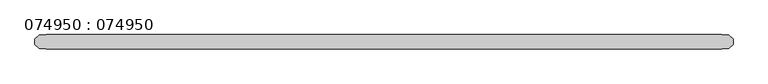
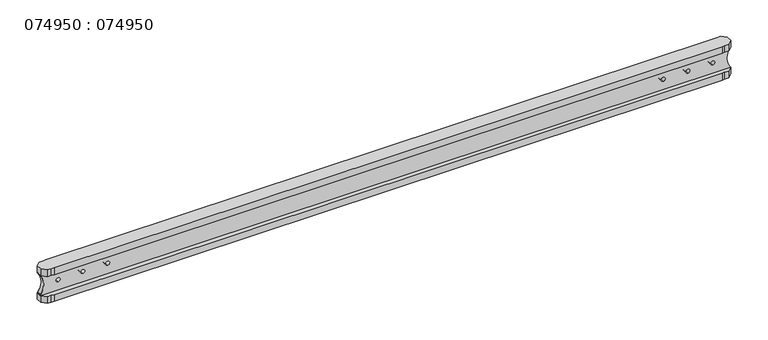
"""IFC4 building model written with IfcOpenShell, lengths in millimetres: proxy geometry, 074950 : 074950."""

import ifcopenshell
import ifcopenshell.guid

model = None  # the IFC model being written
_history = None  # IfcOwnerHistory: only IFC2X3 demands one
_inside = {}  # id of a spatial element -> (the spatial element, [elements in it])
_under = {}  # id of a project, library or spatial element -> (it, [spatial elements below it])
_declared = {}  # id of a project -> (the project, [libraries it declares])
_typed = {}  # id of a type object -> (the type object, [elements of that type])
_made_of = {}  # id of a material, layer set ... -> (it, [elements and type objects made of it])


def new_model(schema):
    """Start an empty IFC model of exactly this schema.

    Asked for "IFC4X3", IfcOpenShell would pick the latest addendum, in which some entities
    have other attributes; the version numbers below select the first issue.
    IFC2X3 requires an IfcOwnerHistory on every rooted entity: one is made here for all.
    """
    global model, _history
    if schema == "IFC4X3":
        model = ifcopenshell.file(schema_version=(4, 3, 0, 0))
    else:
        model = ifcopenshell.file(schema=schema)
    _inside.clear()
    _under.clear()
    _declared.clear()
    _typed.clear()
    _made_of.clear()
    _history = None
    if model.schema == "IFC2X3":
        org = make("IfcOrganization", Name="unknown")
        user = make(
            "IfcPersonAndOrganization",
            ThePerson=make("IfcPerson", FamilyName="unknown"),
            TheOrganization=org,
        )
        app = make(
            "IfcApplication",
            ApplicationDeveloper=org,
            Version="unknown",
            ApplicationFullName="unknown",
            ApplicationIdentifier="unknown",
        )
        _history = make(
            "IfcOwnerHistory",
            OwningUser=user,
            OwningApplication=app,
            ChangeAction="ADDED",
            CreationDate=0,
        )
    return model


def make(cls, **values):
    """One entity of the class cls with the attributes given. An attribute that is None is left unset."""
    return model.create_entity(
        cls, **{name: value for name, value in values.items() if value is not None}
    )


def rooted(cls, **values):
    """An entity with a GlobalId (a new one), such as an element, a storey or a relation."""
    return make(cls, GlobalId=ifcopenshell.guid.new(), OwnerHistory=_history, **values)


def si_unit(unit_type, name, prefix=None):
    """IfcSIUnit, for example si_unit("LENGTHUNIT", "METRE", prefix="MILLI")."""
    return make("IfcSIUnit", UnitType=unit_type, Prefix=prefix, Name=name)


def assignment(units):
    """IfcUnitAssignment: the units of a project."""
    return None if units is None else make("IfcUnitAssignment", Units=units)


def point(xyz):
    """IfcCartesianPoint."""
    return None if xyz is None else make("IfcCartesianPoint", Coordinates=xyz)


def direction(xyz):
    """IfcDirection."""
    return None if xyz is None else make("IfcDirection", DirectionRatios=xyz)


def frame(location, z_axis=None, x_axis=None):
    """IfcAxis2Placement3D, a coordinate frame: its origin and axes. An axis left out is left unset."""
    return make(
        "IfcAxis2Placement3D",
        Location=point(location),
        Axis=direction(z_axis),
        RefDirection=direction(x_axis),
    )


def origin():
    """The frame at (0, 0, 0) with its axes left unset."""
    return frame((0.0, 0.0, 0.0))


def place(relative_to, where):
    """IfcLocalPlacement: puts the frame where relative to a parent placement (None: the world)."""
    return make(
        "IfcLocalPlacement", PlacementRelTo=relative_to, RelativePlacement=where
    )


def context(
    kind, dimensions, precision=None, world=None, true_north=None, identifier=None
):
    """IfcGeometricRepresentationContext, for example the 3D "Model" context."""
    return make(
        "IfcGeometricRepresentationContext",
        ContextIdentifier=identifier,
        ContextType=kind,
        CoordinateSpaceDimension=dimensions,
        Precision=precision,
        WorldCoordinateSystem=world,
        TrueNorth=true_north,
    )


def project(units=None, contexts=None):
    """IfcProject with its units and contexts."""
    return rooted(
        "IfcProject",
        Name="project",
        RepresentationContexts=contexts,
        UnitsInContext=assignment(units),
    )


def spatial(cls, under=None, at=None, **own):
    """A site, building, storey or space (cls), placed at a placement, below another one or the project."""
    s = rooted(cls, ObjectPlacement=at, **own)
    if under is not None:
        _under.setdefault(under.id(), (under, []))[1].append(s)
    return s


def polyline(points):
    """IfcPolyline through the points."""
    return make("IfcPolyline", Points=[point(p) for p in points])


def circle_curve(where, radius):
    """IfcCircle in the frame where."""
    return make("IfcCircle", Position=where, Radius=radius)


def shape(context_of_items, identifier, shape_type, items):
    """IfcShapeRepresentation: the items that make up one representation, for example the "Body"."""
    return make(
        "IfcShapeRepresentation",
        ContextOfItems=context_of_items,
        RepresentationIdentifier=identifier,
        RepresentationType=shape_type,
        Items=items,
    )


def source(mapping_origin, context_of_items, identifier, shape_type, items):
    """IfcRepresentationMap: a shape defined once, which mapped items show again and again."""
    return make(
        "IfcRepresentationMap",
        MappingOrigin=mapping_origin,
        MappedRepresentation=shape(context_of_items, identifier, shape_type, items),
    )


def transform(
    local_origin,
    x_axis=None,
    y_axis=None,
    z_axis=None,
    scale=None,
    scale2=None,
    scale3=None,
    uniform=True,
):
    """IfcCartesianTransformationOperator3D, or its non-uniform kind. x_axis, y_axis, z_axis: its Axis1, 2, 3."""
    if uniform:
        return make(
            "IfcCartesianTransformationOperator3D",
            Axis1=direction(x_axis),
            Axis2=direction(y_axis),
            LocalOrigin=point(local_origin),
            Scale=scale,
            Axis3=direction(z_axis),
        )
    return make(
        "IfcCartesianTransformationOperator3DnonUniform",
        Axis1=direction(x_axis),
        Axis2=direction(y_axis),
        LocalOrigin=point(local_origin),
        Scale=scale,
        Axis3=direction(z_axis),
        Scale2=scale2,
        Scale3=scale3,
    )


def mapped(mapping_source, mapping_target):
    """IfcMappedItem: shows the shape of a source again, moved by a transform."""
    return make(
        "IfcMappedItem", MappingSource=mapping_source, MappingTarget=mapping_target
    )


def made_of(thing, what):
    """Note that an element or type object is made of a material, layer set ...; save() writes the relation."""
    if what is not None:
        _made_of.setdefault(what.id(), (what, []))[1].append(thing)
    return thing


def element(
    cls,
    number,
    at=None,
    inside=None,
    cuts=None,
    type_object=None,
    material=None,
    context=None,
    identifier="Body",
    shape_type=None,
    held_by="IfcProductDefinitionShape",
    body=None,
    shapes=None,
    **own,
):
    """One element of the class cls, such as IfcWall. Its Tag is "e" and its number.

    at: its placement. inside: the storey or other place that contains it. cuts: it is an
    opening in that element (IfcRelVoidsElement). A single representation is given by context,
    identifier, shape_type and body (its items); several are given by shapes. held_by: the class
    of the entity that holds the representations. save() writes the other relations.
    """
    e = rooted(cls, Tag="e%d" % number, ObjectPlacement=at, **own)
    if body is not None:
        shapes = [shape(context, identifier, shape_type, body)]
    if shapes is not None:
        e.Representation = make(held_by, Representations=shapes)
    if inside is not None:
        _inside.setdefault(inside.id(), (inside, []))[1].append(e)
    if cuts is not None:
        rooted(
            "IfcRelVoidsElement", RelatingBuildingElement=cuts, RelatedOpeningElement=e
        )
    if type_object is not None:
        _typed.setdefault(type_object.id(), (type_object, []))[1].append(e)
    return made_of(e, material)


def aggregate(whole, parts):
    """IfcRelAggregates: a whole, such as a stair, and the parts it consists of."""
    return rooted("IfcRelAggregates", RelatingObject=whole, RelatedObjects=parts)


def save(model, path):
    """Write the relations noted so far, then the file.

    IfcRelAggregates (storeys below a building ...), IfcRelContainedInSpatialStructure (elements
    in a storey), IfcRelDefinesByType, IfcRelAssociatesMaterial and IfcRelDeclares: one each for
    every whole, place, type object, material and project.
    """
    for whole, parts in _under.values():
        aggregate(whole, parts)
    for where, things in _inside.values():
        rooted(
            "IfcRelContainedInSpatialStructure",
            RelatedElements=things,
            RelatingStructure=where,
        )
    for kind, things in _typed.values():
        rooted("IfcRelDefinesByType", RelatedObjects=things, RelatingType=kind)
    for what, things in _made_of.values():
        rooted("IfcRelAssociatesMaterial", RelatedObjects=things, RelatingMaterial=what)
    for by, libraries in _declared.values():
        rooted("IfcRelDeclares", RelatingContext=by, RelatedDefinitions=libraries)
    model.write(path)


def plane_surface(at):
    """IfcPlane: the flat surface through the origin of the frame at, square to its z axis."""
    return make("IfcPlane", Position=at)


def cylinder_surface(at, radius):
    """IfcCylindricalSurface: all points at the distance radius from the z axis of the frame at."""
    return make("IfcCylindricalSurface", Position=at, Radius=radius)


def revolved_surface(curve, axis_point, axis_direction):
    """IfcSurfaceOfRevolution: the curve turned about the line through axis_point along axis_direction."""
    return make(
        "IfcSurfaceOfRevolution",
        SweptCurve=make("IfcArbitraryOpenProfileDef", ProfileType="CURVE", Curve=curve),
        AxisPosition=make("IfcAxis1Placement", Location=point(axis_point), Axis=direction(axis_direction)),
    )


def advanced_brep(points, edges, surfaces, faces):
    """IfcAdvancedBrep: a solid bounded by faces that lie on surfaces and meet in shared edges.

    An edge is (start, end): straight between two places in points (the first is 0);
    or (start, end, curve); or (start, end, curve, False) where it runs against its curve.
    A face is (place in surfaces, loops), or (place, loops, False) where it looks against
    its surface's normal. A loop lists edges by number (the first is 1), with a minus sign
    where the edge is run from its end to its start. The first loop is the outer one.
    """
    corners = [point(p) for p in points]
    vertices = [make("IfcVertexPoint", VertexGeometry=c) for c in corners]
    made = []
    for start, end, *more in edges:
        made.append(
            make(
                "IfcEdgeCurve",
                EdgeStart=vertices[start],
                EdgeEnd=vertices[end],
                EdgeGeometry=more[0] if more else make("IfcPolyline", Points=[corners[start], corners[end]]),
                SameSense=more[1] if len(more) > 1 else True,
            )
        )
    hull = []
    for where, loops, *sense in faces:
        bounds = []
        for j, loop in enumerate(loops):
            ring = [make("IfcOrientedEdge", EdgeElement=made[abs(k) - 1], Orientation=k > 0) for k in loop]
            bounds.append(
                make(
                    "IfcFaceOuterBound" if j == 0 else "IfcFaceBound",
                    Bound=make("IfcEdgeLoop", EdgeList=ring),
                    Orientation=True,
                )
            )
        hull.append(make("IfcAdvancedFace", Bounds=bounds, FaceSurface=surfaces[where], SameSense=sense[0] if sense else True))
    return make("IfcAdvancedBrep", Outer=make("IfcClosedShell", CfsFaces=hull))


def proxy_074950_074950_5c7bac8d(model_context):
    return source(origin(), model_context, "Body", "AdvancedBrep", [
        advanced_brep(
        [(3520.0, 13.5, 89.0), (3520.0, -13.5, 89.0), (3520.0, -13.5, 111.0), (3520.0, 13.5, 111.0), (3660.0, 13.5, 89.0), (3660.0, -13.5, 89.0), (3660.0, -13.5, 111.0), (3660.0, 13.5, 111.0), (3800.0, 13.5, 89.0), (3800.0, -13.5, 89.0), (3800.0, -13.5, 111.0), (3800.0, 13.5, 111.0), (100.0, 13.5, 89.0), (100.0, -13.5, 89.0), (100.0, -13.5, 111.0), (100.0, 13.5, 111.0), (380.0, 13.5, 89.0), (380.0, -13.5, 89.0), (380.0, -13.5, 111.0), (380.0, 13.5, 111.0), (240.0, 13.5, 89.0), (240.0, -13.5, 89.0), (240.0, -13.5, 111.0), (240.0, 13.5, 111.0), (62.3853149, -40.0, 40.0), (48.0, -38.25, 40.0), (48.0, -38.25, 0.0), (62.3853149, -40.0, 0.0), (23.5, -38.25, 40.0), (23.5, -38.25, 0.0), (0.0, -14.9576475, 40.0), (0.0, -14.9576475, 0.0), (0.0, 14.9576475, 40.0), (23.5, 38.25, 40.0), (23.5, 38.25, 0.0), (0.0, 14.9576475, 0.0), (48.0, 38.25, 40.0), (48.0, 38.25, 0.0), (62.3853149, 40.0, 40.0), (62.3853149, 40.0, 0.0), (0.1998135, 13.5, 40.0), (0.1998135, -13.5, 40.0), (1.7390909, -13.5, 43.6463125), (1.7390909, 13.5, 43.6463125), (3837.6146851, -40.0, 0.0), (3837.6146851, -40.0, 40.0), (62.3853149, -40.0, 200.0), (48.0, -38.25, 200.0), (48.0, -38.25, 160.0), (62.3853149, -40.0, 160.0), (23.5, -38.25, 200.0), (23.5, -38.25, 160.0), (0.0, -14.9576475, 200.0), (0.0, -14.9576475, 160.0), (0.0, 14.9576475, 200.0), (23.5, 38.25, 200.0), (23.5, 38.25, 160.0), (0.0, 14.9576475, 160.0), (48.0, 38.25, 200.0), (48.0, 38.25, 160.0), (62.3853149, 40.0, 200.0), (62.3853149, 40.0, 160.0), (3837.6146851, -40.0, 200.0), (3852.0, -38.25, 200.0), (3876.5, -38.25, 200.0), (3900.0, -14.9576475, 200.0), (3900.0, 14.9576475, 200.0), (3876.5, 38.25, 200.0), (3852.0, 38.25, 200.0), (3837.6146851, 40.0, 200.0), (3837.6146851, -40.0, 160.0), (0.1998135, -13.5, 160.0), (0.1998135, 13.5, 160.0), (1.7390909, 13.5, 156.3536875), (1.7390909, -13.5, 156.3536875), (3899.8001865, -13.5, 40.0), (3898.2609091, -13.5, 43.6463125), (3898.2609091, -13.5, 156.3536875), (3899.8001865, -13.5, 160.0), (3898.2609091, 13.5, 43.6463125), (3898.2609091, 13.5, 156.3536875), (3899.8001865, 13.5, 160.0), (3899.8001865, 13.5, 40.0), (3837.6146851, 40.0, 0.0), (3852.0, 38.25, 0.0), (3876.5, 38.25, 0.0), (3900.0, 14.9576475, 0.0), (3900.0, -14.9576475, 0.0), (3876.5, -38.25, 0.0), (3852.0, -38.25, 0.0), (3837.6146851, 40.0, 40.0), (3852.0, -38.25, 40.0), (3876.5, -38.25, 40.0), (3900.0, -14.9576475, 40.0), (3900.0, 14.9576475, 40.0), (3876.5, 38.25, 40.0), (3852.0, 38.25, 40.0), (3900.0, 14.9576475, 160.0), (3900.0, -14.9576475, 160.0), (3837.6146851, 40.0, 160.0), (3852.0, 38.25, 160.0), (3876.5, 38.25, 160.0), (3876.5, -38.25, 160.0), (3852.0, -38.25, 160.0)],
        [
            (0, 1),
            (1, 2, circle_curve(frame((3520.0, -13.5, 100.0), z_axis=(0.0, -1.0, 0.0), x_axis=(0.0, 0.0, -1.0)), 11.0)),
            (2, 3),
            (3, 0, circle_curve(frame((3520.0, 13.5, 100.0), z_axis=(0.0, 1.0, 0.0), x_axis=(0.0, 0.0, -1.0)), 11.0)),
            (4, 5),
            (5, 6, circle_curve(frame((3660.0, -13.5, 100.0), z_axis=(0.0, -1.0, 0.0), x_axis=(0.0, 0.0, -1.0)), 11.0)),
            (6, 7),
            (7, 4, circle_curve(frame((3660.0, 13.5, 100.0), z_axis=(0.0, 1.0, 0.0), x_axis=(0.0, 0.0, -1.0)), 11.0)),
            (8, 9),
            (9, 10, circle_curve(frame((3800.0, -13.5, 100.0), z_axis=(0.0, -1.0, 0.0), x_axis=(0.0, 0.0, -1.0)), 11.0)),
            (10, 11),
            (11, 8, circle_curve(frame((3800.0, 13.5, 100.0), z_axis=(0.0, 1.0, 0.0), x_axis=(0.0, 0.0, -1.0)), 11.0)),
            (12, 13),
            (13, 14, circle_curve(frame((100.0, -13.5, 100.0), z_axis=(0.0, -1.0, 0.0), x_axis=(0.0, 0.0, -1.0)), 11.0)),
            (14, 15),
            (15, 12, circle_curve(frame((100.0, 13.5, 100.0), z_axis=(0.0, 1.0, 0.0), x_axis=(0.0, 0.0, -1.0)), 11.0)),
            (16, 17),
            (17, 18, circle_curve(frame((380.0, -13.5, 100.0), z_axis=(0.0, -1.0, 0.0), x_axis=(0.0, 0.0, -1.0)), 11.0)),
            (18, 19),
            (19, 16, circle_curve(frame((380.0, 13.5, 100.0), z_axis=(0.0, 1.0, 0.0), x_axis=(0.0, 0.0, -1.0)), 11.0)),
            (20, 21),
            (21, 22, circle_curve(frame((240.0, -13.5, 100.0), z_axis=(0.0, -1.0, 0.0), x_axis=(0.0, 0.0, -1.0)), 11.0)),
            (22, 23),
            (23, 20, circle_curve(frame((240.0, 13.5, 100.0), z_axis=(0.0, 1.0, 0.0), x_axis=(0.0, 0.0, -1.0)), 11.0)),
            (24, 25),
            (25, 26),
            (26, 27),
            (27, 24),
            (25, 28),
            (28, 29),
            (29, 26),
            (28, 30),
            (30, 31),
            (31, 29),
            (32, 33),
            (33, 34),
            (34, 35),
            (35, 32),
            (33, 36),
            (36, 37),
            (37, 34),
            (36, 38),
            (38, 39),
            (39, 37),
            (40, 41),
            (41, 42, circle_curve(frame((10.0, -13.5, 38.0109437), z_axis=(0.0, 1.0, 0.0), x_axis=(0.8260909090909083, 0.0, -0.5635368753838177)), 10.0)),
            (42, 43),
            (43, 40, circle_curve(frame((10.0, 13.5, 38.0109437), z_axis=(0.0, -1.0, 0.0), x_axis=(0.8260909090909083, 0.0, -0.5635368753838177)), 10.0)),
            (27, 44),
            (44, 45),
            (45, 24),
            (46, 47),
            (47, 48),
            (48, 49),
            (49, 46),
            (47, 50),
            (50, 51),
            (51, 48),
            (50, 52),
            (52, 53),
            (53, 51),
            (54, 55),
            (55, 56),
            (56, 57),
            (57, 54),
            (55, 58),
            (58, 59),
            (59, 56),
            (58, 60),
            (60, 61),
            (61, 59),
            (46, 62),
            (62, 63),
            (63, 64),
            (64, 65),
            (65, 66),
            (66, 67),
            (67, 68),
            (68, 69),
            (69, 60),
            (54, 52),
            (49, 70),
            (70, 62),
            (57, 53),
            (71, 72),
            (72, 73, circle_curve(frame((10.0, 13.5, 161.9890563), z_axis=(0.0, -1.0, 0.0), x_axis=(1.0, 0.0, 0.0)), 10.0)),
            (73, 74),
            (74, 71, circle_curve(frame((10.0, -13.5, 161.9890563), z_axis=(0.0, 1.0, 0.0), x_axis=(1.0, 0.0, 0.0)), 10.0)),
            (42, 74, circle_curve(frame((-80.87, -13.5, 100.0), z_axis=(0.0, -1.0, 0.0), x_axis=(0.8260909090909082, 0.0, -0.563536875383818)), 100.0)),
            (73, 43, circle_curve(frame((-80.87, 13.5, 100.0), z_axis=(0.0, 1.0, 0.0), x_axis=(0.8260909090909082, 0.0, -0.563536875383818)), 100.0)),
            (20, 23, circle_curve(frame((240.0, 13.5, 100.0), z_axis=(0.0, 1.0, 0.0), x_axis=(0.0, 0.0, -1.0)), 11.0)),
            (22, 21, circle_curve(frame((240.0, -13.5, 100.0), z_axis=(0.0, -1.0, 0.0), x_axis=(0.0, 0.0, -1.0)), 11.0)),
            (16, 19, circle_curve(frame((380.0, 13.5, 100.0), z_axis=(0.0, 1.0, 0.0), x_axis=(0.0, 0.0, -1.0)), 11.0)),
            (18, 17, circle_curve(frame((380.0, -13.5, 100.0), z_axis=(0.0, -1.0, 0.0), x_axis=(0.0, 0.0, -1.0)), 11.0)),
            (12, 15, circle_curve(frame((100.0, 13.5, 100.0), z_axis=(0.0, 1.0, 0.0), x_axis=(0.0, 0.0, -1.0)), 11.0)),
            (14, 13, circle_curve(frame((100.0, -13.5, 100.0), z_axis=(0.0, -1.0, 0.0), x_axis=(0.0, 0.0, -1.0)), 11.0)),
            (35, 31),
            (30, 32),
            (41, 75),
            (75, 76, circle_curve(frame((3890.0, -13.5, 38.0109437), z_axis=(0.0, -1.0, 0.0), x_axis=(-0.8260909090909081, 0.0, -0.5635368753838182)), 10.0)),
            (76, 77, circle_curve(frame((3980.87, -13.5, 100.0), z_axis=(0.0, 1.0, 0.0), x_axis=(-0.8260909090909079, 0.0, -0.5635368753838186)), 100.0)),
            (77, 78, circle_curve(frame((3890.0, -13.5, 161.9890563), z_axis=(0.0, -1.0, 0.0), x_axis=(-1.0, 0.0, 0.0)), 10.0)),
            (78, 71),
            (1, 2, circle_curve(frame((3520.0, -13.5, 100.0), z_axis=(0.0, 1.0, 0.0), x_axis=(0.0, 0.0, -1.0)), 11.0)),
            (5, 6, circle_curve(frame((3660.0, -13.5, 100.0), z_axis=(0.0, 1.0, 0.0), x_axis=(0.0, 0.0, -1.0)), 11.0)),
            (9, 10, circle_curve(frame((3800.0, -13.5, 100.0), z_axis=(0.0, 1.0, 0.0), x_axis=(0.0, 0.0, -1.0)), 11.0)),
            (8, 11, circle_curve(frame((3800.0, 13.5, 100.0), z_axis=(0.0, 1.0, 0.0), x_axis=(0.0, 0.0, -1.0)), 11.0)),
            (4, 7, circle_curve(frame((3660.0, 13.5, 100.0), z_axis=(0.0, 1.0, 0.0), x_axis=(0.0, 0.0, -1.0)), 11.0)),
            (0, 3, circle_curve(frame((3520.0, 13.5, 100.0), z_axis=(0.0, 1.0, 0.0), x_axis=(0.0, 0.0, -1.0)), 11.0)),
            (76, 79),
            (79, 80, circle_curve(frame((3980.87, 13.5, 100.0), z_axis=(0.0, 1.0, 0.0), x_axis=(-0.8260909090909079, 0.0, -0.5635368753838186)), 100.0)),
            (80, 77),
            (81, 78),
            (80, 81, circle_curve(frame((3890.0, 13.5, 161.9890563), z_axis=(0.0, -1.0, 0.0), x_axis=(-1.0, 0.0, 0.0)), 10.0)),
            (75, 82),
            (82, 79, circle_curve(frame((3890.0, 13.5, 38.0109437), z_axis=(0.0, -1.0, 0.0), x_axis=(-0.8260909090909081, 0.0, -0.5635368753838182)), 10.0)),
            (72, 81),
            (82, 40),
            (39, 83),
            (83, 84),
            (84, 85),
            (85, 86),
            (86, 87),
            (87, 88),
            (88, 89),
            (89, 44),
            (90, 38),
            (45, 91),
            (91, 92),
            (92, 93),
            (93, 94),
            (94, 95),
            (95, 96),
            (96, 90),
            (89, 91),
            (88, 92),
            (87, 93),
            (86, 94),
            (85, 95),
            (84, 96),
            (83, 90),
            (97, 66),
            (65, 98),
            (98, 97),
            (61, 99),
            (99, 100),
            (100, 101),
            (101, 97),
            (98, 102),
            (102, 103),
            (103, 70),
            (69, 99),
            (103, 63),
            (102, 64),
            (101, 67),
            (100, 68),
        ],
        [
            revolved_surface(polyline([(3520.0, 13.5, 89.0), (3520.0, -13.5, 89.0)]), (3520.0, 0.0, 100.0), (0.0, 1.0, 0.0)),
            revolved_surface(polyline([(3660.0, 13.5, 89.0), (3660.0, -13.5, 89.0)]), (3660.0, 0.0, 100.0), (0.0, 1.0, 0.0)),
            revolved_surface(polyline([(3800.0, 13.5, 89.0), (3800.0, -13.5, 89.0)]), (3800.0, 0.0, 100.0), (0.0, 1.0, 0.0)),
            revolved_surface(polyline([(100.0, -13.5, 89.0), (100.0, 13.5, 89.0)]), (100.0, 0.0, 100.0), (0.0, -1.0, 0.0)),
            revolved_surface(polyline([(380.0, -13.5, 89.0), (380.0, 13.5, 89.0)]), (380.0, 0.0, 100.0), (0.0, -1.0, 0.0)),
            revolved_surface(polyline([(240.0, -13.5, 89.0), (240.0, 13.5, 89.0)]), (240.0, 0.0, 100.0), (0.0, -1.0, 0.0)),
            plane_surface(frame((62.3853149, -40.0, 0.0), z_axis=(-0.12076153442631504, -0.9926815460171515, 0.0), x_axis=(0.0, 0.0, -1.0))),
            plane_surface(frame((48.0, -38.25, 0.0), z_axis=(0.0, -1.0, 0.0), x_axis=(0.0, 0.0, -1.0))),
            plane_surface(frame((23.5, -38.25, 0.0), z_axis=(-0.7039619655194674, -0.7102376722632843, 0.0), x_axis=(0.0, 0.0, 1.0))),
            plane_surface(frame((0.0, 14.9576475, 0.0), z_axis=(-0.7039619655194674, 0.7102376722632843, 0.0), x_axis=(0.0, 0.0, 1.0))),
            plane_surface(frame((23.5, 38.25, 0.0), z_axis=(0.0, 1.0, 0.0), x_axis=(0.0, 0.0, 1.0))),
            plane_surface(frame((48.0, 38.25, 0.0), z_axis=(-0.12076153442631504, 0.9926815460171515, 0.0), x_axis=(0.0, 0.0, 1.0))),
            cylinder_surface(frame((10.0, 0.0, 38.0109437), z_axis=(0.0, -1.0, 0.0), x_axis=(0.8260909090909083, 0.0, -0.5635368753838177)), 10.0),
            plane_surface(frame((3784.4440988, -40.0, 0.0), z_axis=(0.0, -1.0, 0.0), x_axis=(0.0, 0.0, -1.0))),
            plane_surface(frame((62.3853149, -40.0, 160.0), z_axis=(-0.12076153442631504, -0.9926815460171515, 0.0), x_axis=(0.0, 0.0, -1.0))),
            plane_surface(frame((48.0, -38.25, 160.0), z_axis=(0.0, -1.0, 0.0), x_axis=(0.0, 0.0, -1.0))),
            plane_surface(frame((23.5, -38.25, 160.0), z_axis=(-0.7039619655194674, -0.7102376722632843, 0.0), x_axis=(0.0, 0.0, 1.0))),
            plane_surface(frame((0.0, 14.9576475, 160.0), z_axis=(-0.7039619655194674, 0.7102376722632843, 0.0), x_axis=(0.0, 0.0, 1.0))),
            plane_surface(frame((23.5, 38.25, 160.0), z_axis=(0.0, 1.0, 0.0), x_axis=(0.0, 0.0, 1.0))),
            plane_surface(frame((48.0, 38.25, 160.0), z_axis=(-0.12076153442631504, 0.9926815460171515, 0.0), x_axis=(0.0, 0.0, 1.0))),
            plane_surface(frame((3836.6433134, 0.0, 200.0), z_axis=(0.0, 0.0, 1.0), x_axis=(-1.0, 0.0, 0.0))),
            plane_surface(frame((3784.4440988, -40.0, 160.0), z_axis=(0.0, -1.0, 0.0), x_axis=(0.0, 0.0, -1.0))),
            plane_surface(frame((0.0, 14.3214286, 155.6785714), z_axis=(-1.0, 0.0, 0.0), x_axis=(0.0, 1.0, 0.0))),
            cylinder_surface(frame((10.0, 0.0, 161.9890563), z_axis=(0.0, -1.0, 0.0), x_axis=(1.0, 0.0, 0.0)), 10.0),
            revolved_surface(polyline([(1.7390909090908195, -13.5, 43.646312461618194), (1.7390909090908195, 13.5, 43.646312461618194)]), (-80.87, 0.0, 100.0), (0.0, -1.0, 0.0)),
            plane_surface(frame((1950.0, -13.5, 100.0), z_axis=(0.0, -1.0, 0.0), x_axis=(1.0, 0.0, 0.0))),
            revolved_surface(polyline([(3898.260909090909, 13.5, 43.646312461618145), (3898.260909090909, -13.5, 43.646312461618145)]), (3980.87, 0.0, 100.0), (0.0, 1.0, 0.0)),
            cylinder_surface(frame((3890.0, 0.0, 161.9890563), z_axis=(0.0, 1.0, 0.0), x_axis=(-1.0, 0.0, 0.0)), 10.0),
            cylinder_surface(frame((3890.0, 0.0, 38.0109437), z_axis=(0.0, 1.0, 0.0), x_axis=(-0.8260909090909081, 0.0, -0.5635368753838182)), 10.0),
            plane_surface(frame((1950.0, 13.5, 160.0), z_axis=(0.0, 1.0, 0.0), x_axis=(-1.0, 0.0, 0.0))),
            plane_surface(frame((3836.6433134, 0.0, 0.0), z_axis=(0.0, 0.0, -1.0), x_axis=(-1.0, 0.0, 0.0))),
            plane_surface(frame((3836.6433134, 0.0, 40.0), z_axis=(0.0, 0.0, 1.0), x_axis=(-1.0, 0.0, 0.0))),
            plane_surface(frame((3837.6146851, -40.0, 0.0), z_axis=(0.12076153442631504, -0.9926815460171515, 0.0), x_axis=(0.0, 0.0, -1.0))),
            plane_surface(frame((3852.0, -38.25, 0.0), z_axis=(0.0, -1.0, 0.0), x_axis=(0.0, 0.0, -1.0))),
            plane_surface(frame((3876.5, -38.25, 0.0), z_axis=(0.7039619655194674, -0.7102376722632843, 0.0), x_axis=(0.0, 0.0, 1.0))),
            plane_surface(frame((3900.0, -14.9576475, 0.0), z_axis=(1.0, 0.0, 0.0), x_axis=(0.0, 0.0, 1.0))),
            plane_surface(frame((3900.0, 14.9576475, 0.0), z_axis=(0.7039619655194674, 0.7102376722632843, 0.0), x_axis=(0.0, 0.0, 1.0))),
            plane_surface(frame((3876.5, 38.25, 0.0), z_axis=(0.0, 1.0, 0.0), x_axis=(0.0, 0.0, 1.0))),
            plane_surface(frame((3852.0, 38.25, 0.0), z_axis=(0.12076153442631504, 0.9926815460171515, 0.0), x_axis=(0.0, 0.0, 1.0))),
            plane_surface(frame((3837.6146851, 40.0, 0.0), z_axis=(0.0, 1.0, 0.0), x_axis=(0.0, 0.0, 1.0))),
            plane_surface(frame((3900.0, -14.9576475, 160.0), z_axis=(1.0, 0.0, 0.0), x_axis=(0.0, 0.0, 1.0))),
            plane_surface(frame((3836.6433134, 0.0, 160.0), z_axis=(0.0, 0.0, -1.0), x_axis=(-1.0, 0.0, 0.0))),
            plane_surface(frame((3837.6146851, 40.0, 160.0), z_axis=(0.0, 1.0, 0.0), x_axis=(0.0, 0.0, 1.0))),
            plane_surface(frame((3837.6146851, -40.0, 160.0), z_axis=(0.12076153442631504, -0.9926815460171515, 0.0), x_axis=(0.0, 0.0, -1.0))),
            plane_surface(frame((3852.0, -38.25, 160.0), z_axis=(0.0, -1.0, 0.0), x_axis=(0.0, 0.0, -1.0))),
            plane_surface(frame((3876.5, -38.25, 160.0), z_axis=(0.7039619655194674, -0.7102376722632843, 0.0), x_axis=(0.0, 0.0, 1.0))),
            plane_surface(frame((3900.0, 14.9576475, 160.0), z_axis=(0.7039619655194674, 0.7102376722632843, 0.0), x_axis=(0.0, 0.0, 1.0))),
            plane_surface(frame((3876.5, 38.25, 160.0), z_axis=(0.0, 1.0, 0.0), x_axis=(0.0, 0.0, 1.0))),
            plane_surface(frame((3852.0, 38.25, 160.0), z_axis=(0.12076153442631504, 0.9926815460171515, 0.0), x_axis=(0.0, 0.0, 1.0))),
        ],
        [
            (0, [[1, 2, 3, 4]]),
            (1, [[5, 6, 7, 8]]),
            (2, [[9, 10, 11, 12]]),
            (3, [[13, 14, 15, 16]]),
            (4, [[17, 18, 19, 20]]),
            (5, [[21, 22, 23, 24]]),
            (6, [[25, 26, 27, 28]]),
            (7, [[29, 30, 31, -26]]),
            (8, [[32, 33, 34, -30]]),
            (9, [[35, 36, 37, 38]]),
            (10, [[39, 40, 41, -36]]),
            (11, [[42, 43, 44, -40]]),
            (12, [[45, 46, 47, 48]]),
            (13, [[49, 50, 51, -28]]),
            (14, [[52, 53, 54, 55]]),
            (15, [[56, 57, 58, -53]]),
            (16, [[59, 60, 61, -57]]),
            (17, [[62, 63, 64, 65]]),
            (18, [[66, 67, 68, -63]]),
            (19, [[69, 70, 71, -67]]),
            (20, [[72, 73, 74, 75, 76, 77, 78, 79, 80, -69, -66, -62, 81, -59, -56, -52]]),
            (21, [[82, 83, -72, -55]]),
            (22, [[-65, 84, -60, -81]]),
            (23, [[85, 86, 87, 88]]),
            (24, [[89, -87, 90, -47]]),
            (5, [[-21, 91, -23, 92]]),
            (4, [[-17, 93, -19, 94]]),
            (3, [[-13, 95, -15, 96]]),
            (22, [[-38, 97, -33, 98]]),
            (25, [[-88, -89, -46, 99, 100, 101, 102, 103], [-2, 104], [-6, 105], [-10, 106], [-14, -96], [-18, -94], [-22, -92]]),
            (2, [[-9, 107, -11, -106]]),
            (1, [[-5, 108, -7, -105]]),
            (0, [[-1, 109, -3, -104]]),
            (26, [[-101, 110, 111, 112]]),
            (27, [[113, -102, -112, 114]]),
            (28, [[115, 116, -110, -100]]),
            (29, [[-86, 117, -114, -111, -116, 118, -48, -90], [-91, -24], [-93, -20], [-95, -16], [-107, -12], [-108, -8], [-109, -4]]),
            (30, [[119, 120, 121, 122, 123, 124, 125, 126, -49, -27, -31, -34, -97, -37, -41, -44]]),
            (31, [[127, -42, -39, -35, -98, -32, -29, -25, -51, 128, 129, 130, 131, 132, 133, 134], [-118, -115, -99, -45]]),
            (32, [[-128, -50, -126, 135]]),
            (33, [[-129, -135, -125, 136]]),
            (34, [[-130, -136, -124, 137]]),
            (35, [[138, -131, -137, -123]]),
            (36, [[-132, -138, -122, 139]]),
            (37, [[-133, -139, -121, 140]]),
            (38, [[-134, -140, -120, 141]]),
            (39, [[-127, -141, -119, -43]]),
            (40, [[142, -76, 143, 144]]),
            (41, [[145, 146, 147, 148, -144, 149, 150, 151, -82, -54, -58, -61, -84, -64, -68, -71], [-85, -103, -113, -117]]),
            (42, [[-80, 152, -145, -70]]),
            (43, [[-73, -83, -151, 153]]),
            (44, [[-74, -153, -150, 154]]),
            (45, [[-75, -154, -149, -143]]),
            (46, [[-77, -142, -148, 155]]),
            (47, [[-78, -155, -147, 156]]),
            (48, [[-79, -156, -146, -152]]),
        ],
    ),
    ])


if __name__ == "__main__":
    model = new_model("IFC4")
    model_context = context("Model", 3, world=origin())
    ifc_project = project(units=[si_unit("LENGTHUNIT", "METRE", prefix="MILLI")], contexts=[model_context])
    site = spatial("IfcSite", under=ifc_project)
    building = spatial("IfcBuilding", under=site)
    placement = place(None, origin())
    proxy_074950_074950_shape = proxy_074950_074950_5c7bac8d(model_context)
    element("IfcBuildingElementProxy", 1, Name="074950 : 074950", ObjectType="074950 : 074950", at=placement, inside=building, context=model_context, shape_type="MappedRepresentation", body=[
        mapped(proxy_074950_074950_shape, transform((0.0, 0.0, 0.0), x_axis=(1.0, 0.0, 0.0), y_axis=(0.0, 1.0, 0.0), z_axis=(0.0, 0.0, 1.0))),
    ])
    save(model, "model.ifc")
